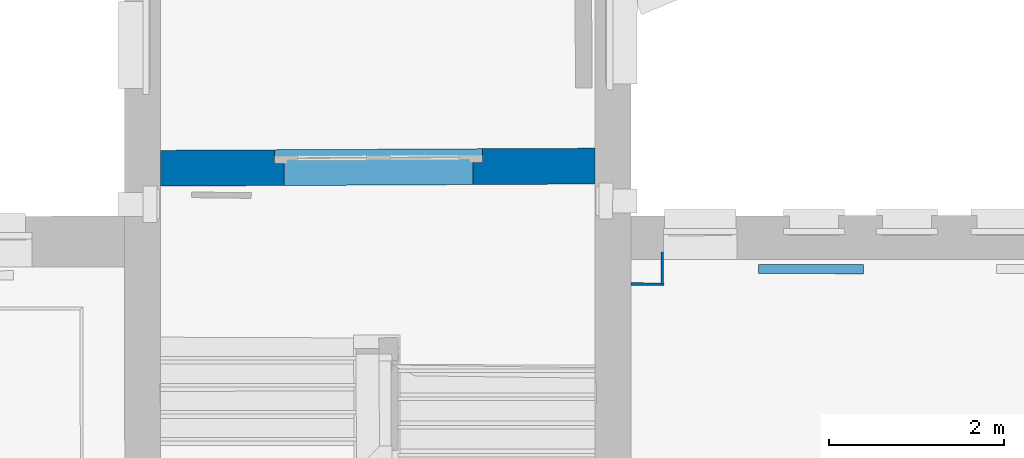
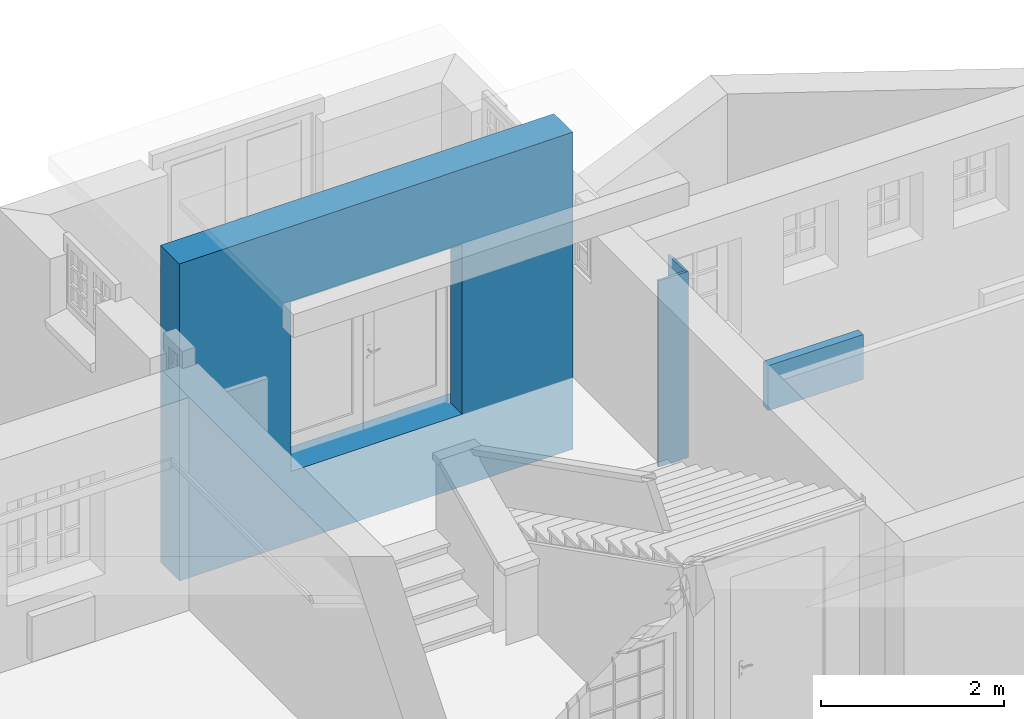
# One storey, part 42 of 196: 4 walls, 1 opening.
"""IFC2X3 building model written with IfcOpenShell, lengths in metres."""

from ifc_helpers import new_model, entity, si_unit, converted_unit, derived_unit, money_unit, direction, frame, origin_with_axes, origin_2d_with_axis, place, context, subcontext, project, spatial, polyline, rectangle, outline, extrude, material, layer, layer_set, layer_usage, type_object, element, save


model = new_model("IFC2X3")

# Units and contexts
model_context = context("Model", 3, precision=1e-05, world=origin_with_axes(), true_north=direction((0.0, 1.0)))
body_context = subcontext(model_context, "Body", "Model", "MODEL_VIEW")
ifc_project = project(units=[si_unit("LENGTHUNIT", "METRE"), si_unit("AREAUNIT", "SQUARE_METRE"), si_unit("VOLUMEUNIT", "CUBIC_METRE"), converted_unit("PLANEANGLEUNIT", "DEGREE", entity("IfcPlaneAngleMeasure", 0.0174532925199), si_unit("PLANEANGLEUNIT", "RADIAN"), dimensions=[0, 0, 0, 0, 0, 0, 0]), money_unit("EUR"), converted_unit("TIMEUNIT", "Year", entity("IfcTimeMeasure", 31556926.0), si_unit("TIMEUNIT", "SECOND"), dimensions=[0, 0, 1, 0, 0, 0, 0]), si_unit("MASSUNIT", "GRAM", prefix="KILO"), si_unit("THERMODYNAMICTEMPERATUREUNIT", "DEGREE_CELSIUS"), si_unit("LUMINOUSINTENSITYUNIT", "LUMEN"), si_unit("ENERGYUNIT", "JOULE", prefix="MEGA"), derived_unit("THERMALCONDUCTANCEUNIT", [(si_unit("POWERUNIT", "WATT"), 1), (si_unit("LENGTHUNIT", "METRE"), -1), (si_unit("THERMODYNAMICTEMPERATUREUNIT", "KELVIN"), -1)]), derived_unit("SPECIFICHEATCAPACITYUNIT", [(si_unit("ENERGYUNIT", "JOULE"), 1), (si_unit("MASSUNIT", "GRAM", prefix="KILO"), -1), (si_unit("THERMODYNAMICTEMPERATUREUNIT", "KELVIN"), -1)]), derived_unit("MASSDENSITYUNIT", [(si_unit("MASSUNIT", "GRAM", prefix="KILO"), 1), (si_unit("VOLUMEUNIT", "CUBIC_METRE"), -1)])], contexts=[model_context])

# Site, building, storey
site_placement = place(None, origin_with_axes())
site = spatial("IfcSite", under=ifc_project, at=site_placement, Name="Gelände", CompositionType="ELEMENT")
building_placement = place(site_placement, origin_with_axes())
building = spatial("IfcBuilding", under=site, at=building_placement, Name="Gebäude", CompositionType="ELEMENT")
storey_placement = place(building_placement, frame((0.0, 0.0, -3.0), z_axis=(0.0, 0.0, 1.0), x_axis=(1.0, 0.0, 0.0)))
storey = spatial("IfcBuildingStorey", under=building, at=storey_placement, Name="KELLERGESCHOSS", CompositionType="ELEMENT", Elevation=-3.0)

# Walls
ifc_material_1 = material(Name="43_Gipskarton")
ifc_layer_1 = layer(ifc_material_1, 0.03, ventilated="UNKNOWN")
ifc_layer_set_1 = layer_set([ifc_layer_1], Name="43_Gipskarton 0.03")
ifc_layer_usage_1 = layer_usage(ifc_layer_set_1, "AXIS2", "NEGATIVE", 0.03)
wall_type_1 = type_object("IfcWallType", Name="43_Gipskarton 30", PredefinedType="ELEMENTEDWALL")
wall_1_placement = place(storey_placement, frame((-4.46267632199, 25.3136125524, -0.04), z_axis=(0.0, 0.0, 1.0), x_axis=(0.999994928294, -0.00318486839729, 0.0)))
element("IfcWallStandardCase", 1, at=wall_1_placement, inside=storey, type_object=wall_type_1, material=ifc_layer_usage_1, Name="Wand-039", ObjectType="ELEMENTEDWALL", context=body_context, shape_type="SweptSolid", body=[
    extrude(outline(polyline([(0.0, 0.0), (0.375535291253, 0.0), (0.345091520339, 0.03), (-8.23190051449e-05, 0.03), (0.0, 0.0)])), origin_with_axes(), (0.0, 0.0, 1.0), 2.48),
])
ifc_layer_usage_2 = layer_usage(ifc_layer_set_1, "AXIS2", "NEGATIVE", 0.03)
wall_2_placement = place(storey_placement, frame((-4.08714293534, 25.312416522, -0.04), z_axis=(0.0, 0.0, 1.0), x_axis=(-0.0114983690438, 0.99993389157, 0.0)))
element("IfcWallStandardCase", 2, at=wall_2_placement, inside=storey, type_object=wall_type_1, material=ifc_layer_usage_2, Name="Wand-040", ObjectType="ELEMENTEDWALL", context=body_context, shape_type="SweptSolid", body=[
    extrude(outline(polyline([(0.0, 0.0), (0.382100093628, 0.0), (0.382100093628, 0.03), (0.0304437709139, 0.03), (0.0, 0.0)])), origin_with_axes(), (0.0, 0.0, 1.0), 2.48),
])
ifc_material_2 = material(Name="01_ALLGEMEIN - BAUTEIL")
ifc_layer_2 = layer(ifc_material_2, 0.105, ventilated="UNKNOWN")
ifc_layer_set_2 = layer_set([ifc_layer_2], Name="01_ALLGEMEIN - BAUTEIL 0.105")
ifc_layer_usage_3 = layer_usage(ifc_layer_set_2, "AXIS2", "NEGATIVE", 0.0)
wall_type_2 = type_object("IfcWallType", Name="01_ALLGEMEIN - BAUTEIL 105", PredefinedType="ELEMENTEDWALL")
wall_3_placement = place(storey_placement, frame((-1.80400217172, 25.445071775, 0.119711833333), z_axis=(0.0, 0.0, 1.0), x_axis=(-0.999995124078, 0.00312279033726, 0.0)))
element("IfcWallStandardCase", 3, at=wall_3_placement, inside=storey, type_object=wall_type_2, material=ifc_layer_usage_3, Name="Wand-036", ObjectType="ELEMENTEDWALL", context=body_context, shape_type="SweptSolid", body=[
    extrude(outline(polyline([(0.0, -0.105), (1.20052188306, -0.105), (1.20052188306, 0.0), (0.0, 0.0), (0.0, -0.105)])), origin_with_axes(), (0.0, 0.0, 1.0), 0.598198),
])

# Wall, opening
ifc_material_3 = material(Name="05_ALLGEMEIN - TRAGENDE BAUTEILE")
ifc_layer_3 = layer(ifc_material_3, 0.41, ventilated="UNKNOWN")
ifc_layer_set_3 = layer_set([ifc_layer_3], Name="05_ALLGEMEIN - TRAGENDE BAUTEILE 0.41")
ifc_layer_usage_4 = layer_usage(ifc_layer_set_3, "AXIS2", "NEGATIVE", 0.0)
wall_type_3 = type_object("IfcWallType", Name="05_ALLGEMEIN - TRAGENDE BAUTEILE 410", PredefinedType="ELEMENTEDWALL")
wall_4_placement = place(storey_placement, frame((-4.46216448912, 26.4744580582, -0.36), z_axis=(0.0, 0.0, 1.0), x_axis=(-0.999987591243, -0.00498170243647, 0.0)))
wall_4 = element("IfcWallStandardCase", 4, at=wall_4_placement, inside=storey, type_object=wall_type_3, material=ifc_layer_usage_4, Name="Wand-038", ObjectType="ELEMENTEDWALL", context=body_context, shape_type="SweptSolid", body=[
    extrude(outline(polyline([(0.407782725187, -0.41), (5.37805541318, -0.41), (5.38005934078, 0.0), (0.410006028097, 0.0), (0.407782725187, -0.41)])), origin_with_axes(), (0.0, 0.0, 1.0), 4.22357708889),
])
opening_placement = place(wall_4_placement, frame((2.88787034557, 0.0, 0.96), z_axis=(0.0, 0.0, 1.0), x_axis=(1.0, 0.0, 0.0)))
element("IfcOpeningElement", 5, at=opening_placement, cuts=wall_4, Name="Tür-023", context=body_context, shape_type="SweptSolid", body=[
    extrude(rectangle(XDim=2.16005811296, YDim=2.25809052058, at=origin_2d_with_axis()), frame((0.0, -0.252197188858, 1.12904526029), z_axis=(0.0, -1.0, 0.0), x_axis=(-1.0, 0.0, 0.0)), (0.0, 0.0, -1.0), 0.662197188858),
    extrude(rectangle(XDim=2.38005811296, YDim=2.38809052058, at=origin_2d_with_axis()), frame((0.0, -0.337197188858, 1.19404526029), z_axis=(0.0, 1.0, 0.0), x_axis=(-1.0, 0.0, 0.0)), (0.0, 0.0, 1.0), 0.085),
    extrude(rectangle(XDim=2.38005811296, YDim=2.38809052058, at=origin_2d_with_axis()), frame((0.0, -0.337197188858, 1.19404526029), z_axis=(0.0, 1.0, 0.0), x_axis=(-1.0, 0.0, 0.0)), (0.0, 0.0, -1.0), 0.482802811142),
])

save(model, "model.ifc")
